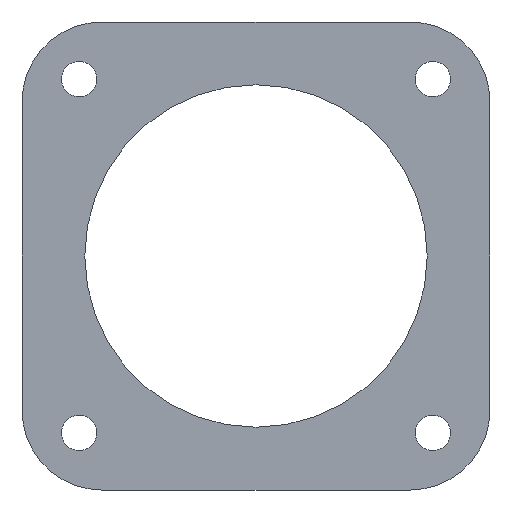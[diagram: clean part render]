
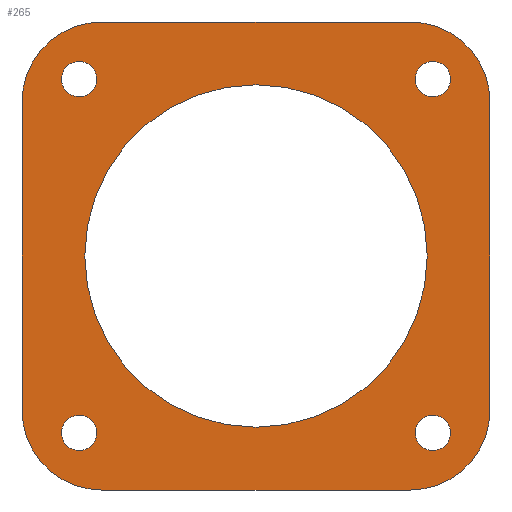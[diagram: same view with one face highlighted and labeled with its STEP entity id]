
A CAD part, front view. The second image highlights one B-rep face of the part: STEP entity #265.
In plain terms, the highlighted planar face has unit normal (0, -1, 0).
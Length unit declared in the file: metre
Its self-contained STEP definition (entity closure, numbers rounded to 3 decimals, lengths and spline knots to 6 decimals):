
#21=LINE('',#425,#37);
#22=LINE('',#429,#38);
#23=LINE('',#433,#39);
#24=LINE('',#437,#40);
#37=VECTOR('',#342,1.);
#38=VECTOR('',#345,1.);
#39=VECTOR('',#348,1.);
#40=VECTOR('',#351,1.);
#53=ORIENTED_EDGE('',*,*,#121,.F.);
#54=ORIENTED_EDGE('',*,*,#122,.F.);
#55=ORIENTED_EDGE('',*,*,#123,.F.);
#56=ORIENTED_EDGE('',*,*,#124,.F.);
#57=ORIENTED_EDGE('',*,*,#125,.F.);
#58=ORIENTED_EDGE('',*,*,#126,.F.);
#59=ORIENTED_EDGE('',*,*,#127,.T.);
#60=ORIENTED_EDGE('',*,*,#128,.F.);
#61=ORIENTED_EDGE('',*,*,#129,.T.);
#62=ORIENTED_EDGE('',*,*,#130,.F.);
#63=ORIENTED_EDGE('',*,*,#131,.T.);
#64=ORIENTED_EDGE('',*,*,#132,.F.);
#65=ORIENTED_EDGE('',*,*,#133,.T.);
#121=EDGE_CURVE('',#155,#155,#181,.T.);
#122=EDGE_CURVE('',#156,#156,#182,.T.);
#123=EDGE_CURVE('',#157,#157,#183,.T.);
#124=EDGE_CURVE('',#158,#158,#184,.T.);
#125=EDGE_CURVE('',#159,#159,#185,.T.);
#126=EDGE_CURVE('',#160,#161,#186,.T.);
#127=EDGE_CURVE('',#160,#162,#21,.T.);
#128=EDGE_CURVE('',#163,#162,#187,.T.);
#129=EDGE_CURVE('',#163,#164,#22,.T.);
#130=EDGE_CURVE('',#165,#164,#188,.T.);
#131=EDGE_CURVE('',#165,#166,#23,.T.);
#132=EDGE_CURVE('',#167,#166,#189,.T.);
#133=EDGE_CURVE('',#167,#161,#24,.T.);
#155=VERTEX_POINT('',#413);
#156=VERTEX_POINT('',#415);
#157=VERTEX_POINT('',#417);
#158=VERTEX_POINT('',#419);
#159=VERTEX_POINT('',#421);
#160=VERTEX_POINT('',#423);
#161=VERTEX_POINT('',#424);
#162=VERTEX_POINT('',#426);
#163=VERTEX_POINT('',#428);
#164=VERTEX_POINT('',#430);
#165=VERTEX_POINT('',#432);
#166=VERTEX_POINT('',#434);
#167=VERTEX_POINT('',#436);
#181=CIRCLE('',#294,0.00155);
#182=CIRCLE('',#295,0.00155);
#183=CIRCLE('',#296,0.00155);
#184=CIRCLE('',#297,0.00155);
#185=CIRCLE('',#298,0.015);
#186=CIRCLE('',#299,0.007);
#187=CIRCLE('',#300,0.007);
#188=CIRCLE('',#301,0.007);
#189=CIRCLE('',#302,0.007);
#199=EDGE_LOOP('',(#53));
#200=EDGE_LOOP('',(#54));
#201=EDGE_LOOP('',(#55));
#202=EDGE_LOOP('',(#56));
#203=EDGE_LOOP('',(#57));
#204=EDGE_LOOP('',(#58,#59,#60,#61,#62,#63,#64,#65));
#229=FACE_BOUND('',#199,.T.);
#230=FACE_BOUND('',#200,.T.);
#231=FACE_BOUND('',#201,.T.);
#232=FACE_BOUND('',#202,.T.);
#233=FACE_BOUND('',#203,.T.);
#234=FACE_BOUND('',#204,.T.);
#259=PLANE('',#293);
#265=ADVANCED_FACE('',(#229,#230,#231,#232,#233,#234),#259,.F.);
#293=AXIS2_PLACEMENT_3D('',#411,#328,#329);
#294=AXIS2_PLACEMENT_3D('',#412,#330,#331);
#295=AXIS2_PLACEMENT_3D('',#414,#332,#333);
#296=AXIS2_PLACEMENT_3D('',#416,#334,#335);
#297=AXIS2_PLACEMENT_3D('',#418,#336,#337);
#298=AXIS2_PLACEMENT_3D('',#420,#338,#339);
#299=AXIS2_PLACEMENT_3D('',#422,#340,#341);
#300=AXIS2_PLACEMENT_3D('',#427,#343,#344);
#301=AXIS2_PLACEMENT_3D('',#431,#346,#347);
#302=AXIS2_PLACEMENT_3D('',#435,#349,#350);
#328=DIRECTION('',(0.,1.,0.));
#329=DIRECTION('',(1.,0.,0.));
#330=DIRECTION('',(0.,-1.,0.));
#331=DIRECTION('',(1.,0.,0.));
#332=DIRECTION('',(0.,-1.,0.));
#333=DIRECTION('',(1.,0.,0.));
#334=DIRECTION('',(0.,-1.,0.));
#335=DIRECTION('',(1.,0.,0.));
#336=DIRECTION('',(0.,-1.,0.));
#337=DIRECTION('',(1.,0.,0.));
#338=DIRECTION('',(0.,-1.,0.));
#339=DIRECTION('',(1.,0.,0.));
#340=DIRECTION('',(0.,1.,0.));
#341=DIRECTION('',(1.,0.,0.));
#342=DIRECTION('',(0.,0.,1.));
#343=DIRECTION('',(0.,1.,0.));
#344=DIRECTION('',(0.,0.,1.));
#345=DIRECTION('',(-1.,0.,0.));
#346=DIRECTION('',(0.,1.,0.));
#347=DIRECTION('',(-1.,0.,0.));
#348=DIRECTION('',(0.,0.,-1.));
#349=DIRECTION('',(0.,1.,0.));
#350=DIRECTION('',(0.,0.,-1.));
#351=DIRECTION('',(1.,0.,0.));
#411=CARTESIAN_POINT('',(0.,-0.0005,0.));
#412=CARTESIAN_POINT('',(-0.0155,-0.0005,-0.0155));
#413=CARTESIAN_POINT('',(-0.01395,-0.0005,-0.0155));
#414=CARTESIAN_POINT('',(0.0155,-0.0005,0.0155));
#415=CARTESIAN_POINT('',(0.01705,-0.0005,0.0155));
#416=CARTESIAN_POINT('',(-0.0155,-0.0005,0.0155));
#417=CARTESIAN_POINT('',(-0.01395,-0.0005,0.0155));
#418=CARTESIAN_POINT('',(0.0155,-0.0005,-0.0155));
#419=CARTESIAN_POINT('',(0.01705,-0.0005,-0.0155));
#420=CARTESIAN_POINT('',(0.,-0.0005,0.));
#421=CARTESIAN_POINT('',(0.015,-0.0005,0.));
#422=CARTESIAN_POINT('',(0.0135,-0.0005,-0.0135));
#423=CARTESIAN_POINT('',(0.0205,-0.0005,-0.0135));
#424=CARTESIAN_POINT('',(0.0135,-0.0005,-0.0205));
#425=CARTESIAN_POINT('',(0.0205,-0.0005,-0.0135));
#426=CARTESIAN_POINT('',(0.0205,-0.0005,0.0135));
#427=CARTESIAN_POINT('',(0.0135,-0.0005,0.0135));
#428=CARTESIAN_POINT('',(0.0135,-0.0005,0.0205));
#429=CARTESIAN_POINT('',(0.0135,-0.0005,0.0205));
#430=CARTESIAN_POINT('',(-0.0135,-0.0005,0.0205));
#431=CARTESIAN_POINT('',(-0.0135,-0.0005,0.0135));
#432=CARTESIAN_POINT('',(-0.0205,-0.0005,0.0135));
#433=CARTESIAN_POINT('',(-0.0205,-0.0005,0.0135));
#434=CARTESIAN_POINT('',(-0.0205,-0.0005,-0.0135));
#435=CARTESIAN_POINT('',(-0.0135,-0.0005,-0.0135));
#436=CARTESIAN_POINT('',(-0.0135,-0.0005,-0.0205));
#437=CARTESIAN_POINT('',(-0.0135,-0.0005,-0.0205));
